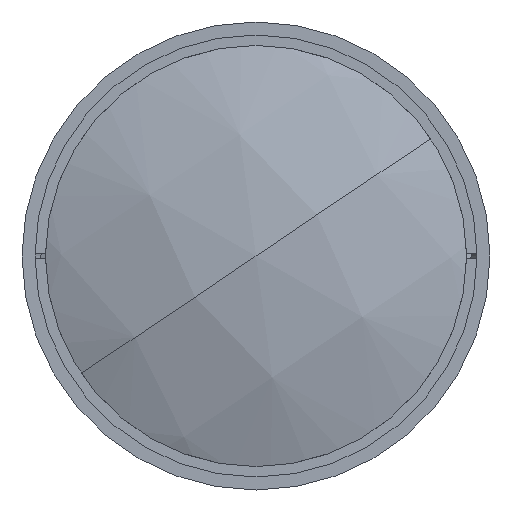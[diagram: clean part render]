
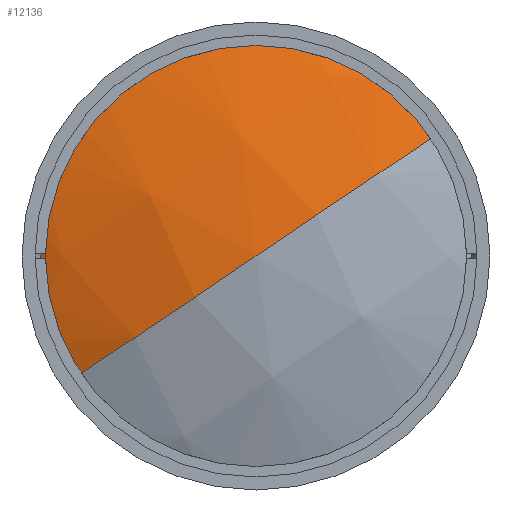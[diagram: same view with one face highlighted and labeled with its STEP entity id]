
A CAD part, left-side view. The second image highlights one B-rep face of the part: STEP entity #12136.
In plain terms, the highlighted spherical face has radius 111.8 mm.
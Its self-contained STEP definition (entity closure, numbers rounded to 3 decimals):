
#584 = CARTESIAN_POINT ( 'NONE',  ( 9.488, -34.435, 23.162 ) ) ;
#1200 = CARTESIAN_POINT ( 'NONE',  ( 113.3, 0., 0. ) ) ;
#1289 = VERTEX_POINT ( 'NONE', #6616 ) ;
#1326 = EDGE_CURVE ( 'NONE', #16085, #1289, #15480, .T. ) ;
#1906 = DIRECTION ( 'NONE',  ( -1., 0., 0. ) ) ;
#2885 = DIRECTION ( 'NONE',  ( 0., 0.83, -0.558 ) ) ;
#4062 = SPHERICAL_SURFACE ( 'NONE', #9670, 111.8 ) ;
#4114 = CIRCLE ( 'NONE', #12144, 111.8 ) ;
#4924 = VERTEX_POINT ( 'NONE', #584 ) ;
#5087 = DIRECTION ( 'NONE',  ( 0., 0.558, 0.83 ) ) ;
#6616 = CARTESIAN_POINT ( 'NONE',  ( 1.5, 0., 0. ) ) ;
#6898 = AXIS2_PLACEMENT_3D ( 'NONE', #11854, #1906, #13503 ) ;
#7442 = FACE_OUTER_BOUND ( 'NONE', #8424, .T. ) ;
#7730 = AXIS2_PLACEMENT_3D ( 'NONE', #15021, #5087, #16692 ) ;
#8424 = EDGE_LOOP ( 'NONE', ( #17951, #10948, #19498 ) ) ;
#9670 = AXIS2_PLACEMENT_3D ( 'NONE', #15142, #20273, #10353 ) ;
#10353 = DIRECTION ( 'NONE',  ( 0., -0.83, 0.558 ) ) ;
#10948 = ORIENTED_EDGE ( 'NONE', *, *, #1326, .T. ) ;
#11854 = CARTESIAN_POINT ( 'NONE',  ( 9.488, 0., 0. ) ) ;
#12136 = ADVANCED_FACE ( 'NONE', ( #7442 ), #4062, .T. ) ;
#12144 = AXIS2_PLACEMENT_3D ( 'NONE', #1200, #12801, #2885 ) ;
#12801 = DIRECTION ( 'NONE',  ( 0., -0.558, -0.83 ) ) ;
#13503 = DIRECTION ( 'NONE',  ( 0., 0.558, 0.83 ) ) ;
#13975 = EDGE_CURVE ( 'NONE', #4924, #16085, #16735, .T. ) ;
#15021 = CARTESIAN_POINT ( 'NONE',  ( 113.3, 0., 0. ) ) ;
#15142 = CARTESIAN_POINT ( 'NONE',  ( 113.3, 0., 0. ) ) ;
#15480 = CIRCLE ( 'NONE', #7730, 111.8 ) ;
#16085 = VERTEX_POINT ( 'NONE', #17181 ) ;
#16692 = DIRECTION ( 'NONE',  ( 0., -0.83, 0.558 ) ) ;
#16735 = CIRCLE ( 'NONE', #6898, 41.5 ) ;
#17181 = CARTESIAN_POINT ( 'NONE',  ( 9.488, 34.435, -23.162 ) ) ;
#17951 = ORIENTED_EDGE ( 'NONE', *, *, #13975, .T. ) ;
#18879 = EDGE_CURVE ( 'NONE', #4924, #1289, #4114, .T. ) ;
#19498 = ORIENTED_EDGE ( 'NONE', *, *, #18879, .F. ) ;
#20273 = DIRECTION ( 'NONE',  ( 0., 0.558, 0.83 ) ) ;
